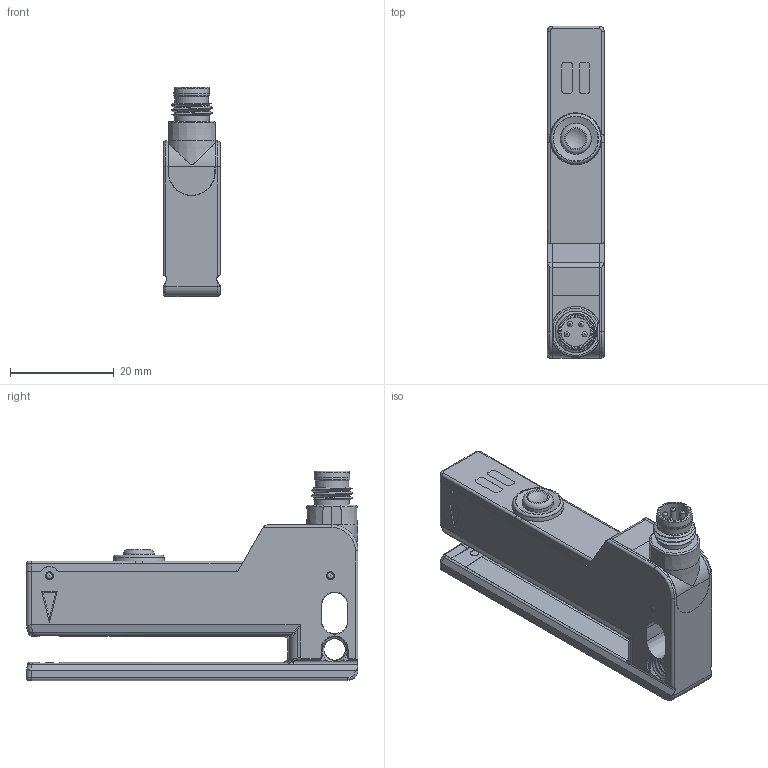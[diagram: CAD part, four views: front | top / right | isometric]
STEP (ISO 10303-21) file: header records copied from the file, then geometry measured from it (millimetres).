
FILE_DESCRIPTION(/* description */ (''),/* implementation_level */ '2;1');
FILE_NAME(/* name */ 'C:\#Vault-WorkDir\Konstruktions-Dokumente\Projekte\FGL\FGL 5 IK\153-01165_FGL 5 IK Stecker.stp',/* time_stamp */ '2014-12-02T11:53:49+01:00',/* author */ ('sandra.stahl'),/* organization */ (''),/* preprocessor_version */ 'ST-DEVELOPER v15.2',/* originating_system */ 'Autodesk Inventor 2014',/* authorisation */ '');
FILE_SCHEMA (('AUTOMOTIVE_DESIGN { 1 0 10303 214 3 1 1 }'));
Length unit declared in the file: millimetre
Products named in the file (1): GH-ENG-0008656
Bounding box: 11.1 x 64 x 40.48 mm (x, y, z)
Surface area: 8914.6 mm2 (no closed solid volume)
Topology: 0 solids, 316 shells, 317 faces, 1598 edges, 1562 vertices
Faces by surface type: cylinder 115, plane 108, bspline 50, cone 29, torus 9, sphere 6
Full cylindrical faces by diameter (mm): 1 x4, 1.2 x1, 1.6 x1, 4.15 x11, 5 x11, 5.75 x1, 5.92 x1, 6.5 x1, 6.75 x2, 6.9 x1, 8 x1
Entity records: 28688 total; most frequent: CARTESIAN_POINT 16319, DIRECTION 2390, ORIENTED_EDGE 1549, EDGE_CURVE 1545, VERTEX_POINT 1541, AXIS2_PLACEMENT_3D 858, LINE 674, VECTOR 674
